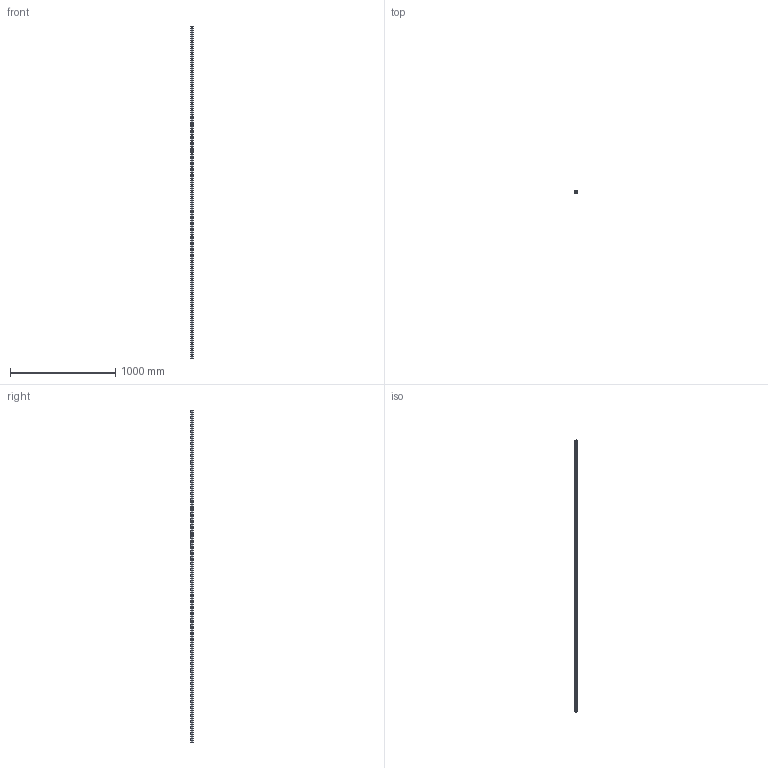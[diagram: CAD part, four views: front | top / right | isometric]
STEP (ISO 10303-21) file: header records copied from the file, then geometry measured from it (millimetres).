
FILE_DESCRIPTION (( 'STEP AP203' ), '1' );
FILE_NAME ('L1016.BL25-3160.step', '2019-06-12T12:14:07', ( '' ), ( '' ), 'SwSTEP 2.0', 'SolidWorks 2017', '' );
FILE_SCHEMA (( 'CONFIG_CONTROL_DESIGN' ));
Length unit declared in the file: millimetre
Products named in the file (1): L1016.BL25-3160
Bounding box: 23 x 19.2 x 3160 mm (x, y, z)
Volume: 1164529.7 mm3; surface area: 298925 mm2
Topology: 1 solids, 1 shells, 291 faces, 708 edges, 472 vertices
Faces by surface type: cylinder 216, plane 75
Entity records: 9063 total; most frequent: DIRECTION 1724, CARTESIAN_POINT 1472, ORIENTED_EDGE 1416, AXIS2_PLACEMENT_3D 724, EDGE_CURVE 708, VERTEX_POINT 472, EDGE_LOOP 450, CIRCLE 432
